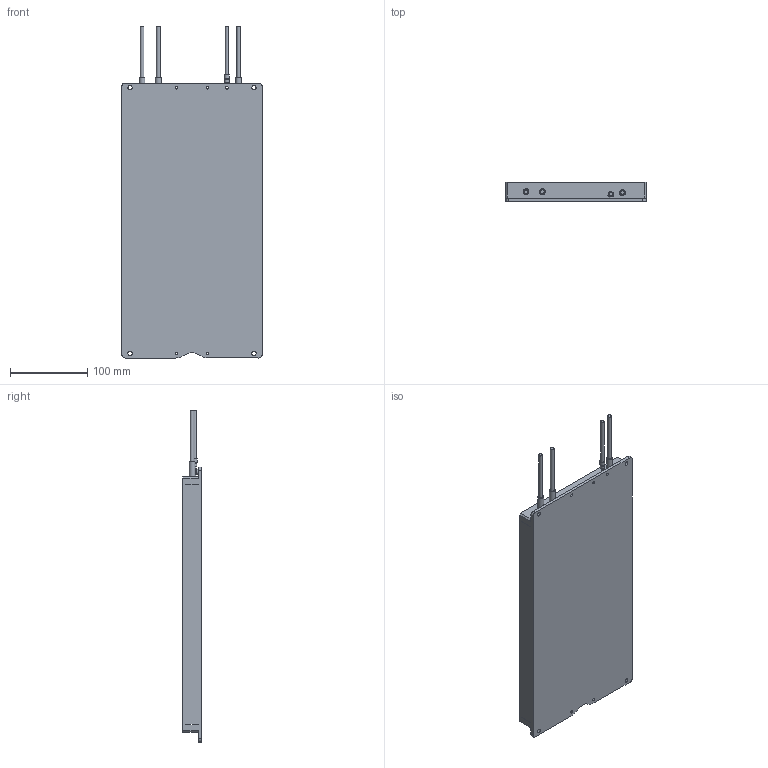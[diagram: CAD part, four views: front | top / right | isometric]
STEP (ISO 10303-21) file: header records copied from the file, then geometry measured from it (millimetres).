
FILE_DESCRIPTION(/* description */ (''),/* implementation_level */ '2;1');
FILE_NAME(/* name */ 'G:\06_WPT_코일패드 고객용 (외함만)\[ RX COIL PAD ]\[FAN 없는 버전_2024.05.30]\TWC-2500W-A-RXCOIL-H24.5.stp',/* time_stamp */ '2024-05-31T13:48:14+09:00',/* author */ ('jjang'),/* organization */ (''),/* preprocessor_version */ 'ST-DEVELOPER v18.1',/* originating_system */ 'Autodesk Inventor 2021',/* authorisation */ '');
FILE_SCHEMA (('AUTOMOTIVE_DESIGN { 1 0 10303 214 3 1 1 }'));
Products named in the file (1): $2024.05.30_RX 코일패드 팬 없는 
버전_TWC-2000W-SEP-RXCOIL_Shrinkwrap_1
Bounding box: 181 x 24.6 x 428.7 mm (x, y, z)
Volume: 663210.5 mm3; surface area: 276964.5 mm2
Topology: 2 solids, 2 shells, 1487 faces, 3964 edges, 2650 vertices
Faces by surface type: plane 917, bspline 509, cylinder 58, torus 2, cone 1
Full cylindrical faces by diameter (mm): 3.3 x4, 3.6 x1, 4 x1, 4.2 x1, 4.3 x1, 4.9 x4, 5.4 x4, 5.59 x3, 5.6 x1, 6 x1, 6.5 x1, 7.6 x3, 22.004 x1, 29.055 x1
Entity records: 49238 total; most frequent: CARTESIAN_POINT 13783, ORIENTED_EDGE 7928, DIRECTION 5064, EDGE_CURVE 3964, LINE 2802, VECTOR 2802, VERTEX_POINT 2650, EDGE_LOOP 1680
